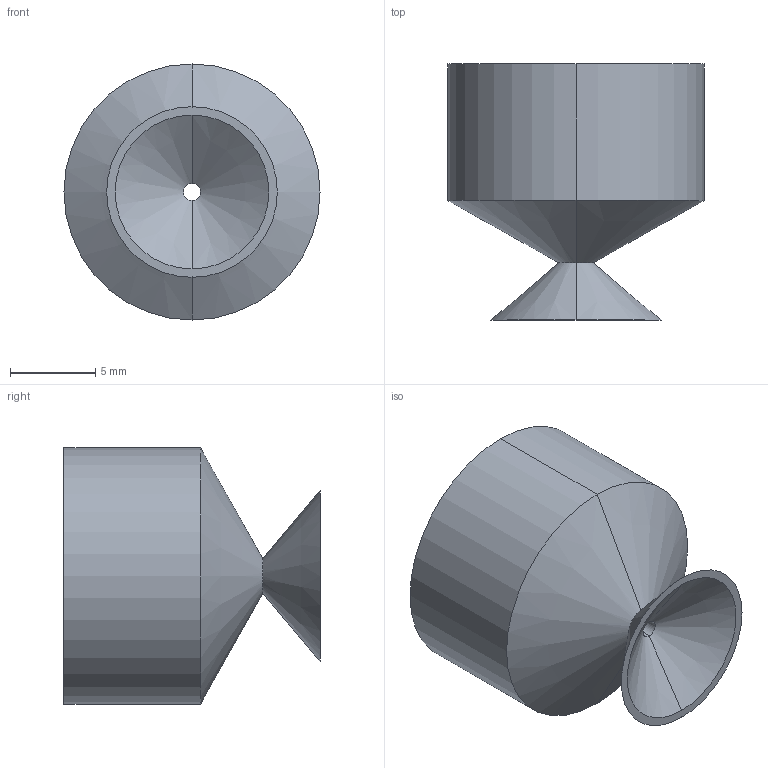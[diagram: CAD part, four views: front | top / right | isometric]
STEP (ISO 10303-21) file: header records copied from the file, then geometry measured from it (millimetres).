
FILE_DESCRIPTION (( 'STEP AP214' ), '1' );
FILE_NAME ('VSH-M10.STEP', '2019-11-30T09:07:00', ( '微软用户' ), ( '微软中国' ), 'SwSTEP 2.0', 'SolidWorks 2016', '' );
FILE_SCHEMA (( 'AUTOMOTIVE_DESIGN' ));
Length unit declared in the file: millimetre
Products named in the file (1): VSH-M10
Bounding box: 15 x 15 x 15 mm (x, y, z)
Volume: 1197.4 mm3; surface area: 1276.3 mm2
Topology: 1 solids, 1 shells, 18 faces, 36 edges, 22 vertices
Faces by surface type: cylinder 8, cone 6, plane 4
Entity records: 512 total; most frequent: DIRECTION 96, CARTESIAN_POINT 77, ORIENTED_EDGE 72, AXIS2_PLACEMENT_3D 41, EDGE_CURVE 36, VERTEX_POINT 22, EDGE_LOOP 22, CIRCLE 22
